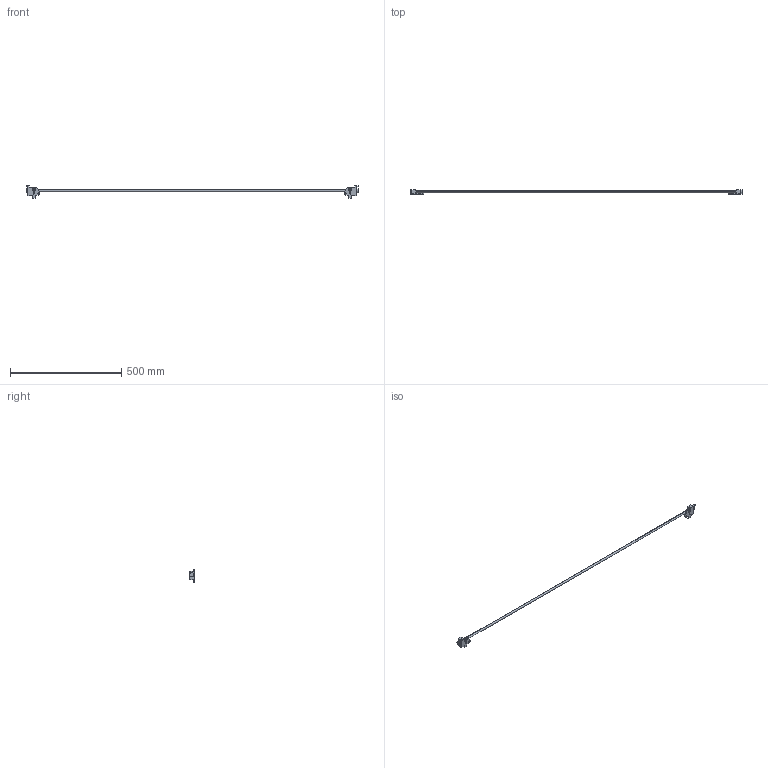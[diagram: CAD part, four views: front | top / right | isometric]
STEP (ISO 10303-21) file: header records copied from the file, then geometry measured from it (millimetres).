
FILE_DESCRIPTION (( 'STEP AP214' ), '1' );
FILE_NAME ('Seitenstabilisator-Set_KAB-1500.step', '2010-09-22T11:14:52', ( 'grass' ), ( '' ), 'SwSTEP 2.0', 'SolidWorks 2010', '' );
FILE_SCHEMA (( 'AUTOMOTIVE_DESIGN' ));
Length unit declared in the file: millimetre
Products named in the file (1): Seitenstabilisator-Set_KAB-1500
Bounding box: 1493 x 21.55 x 55.1 mm (x, y, z)
Volume: 157430.8 mm3; surface area: 60885.7 mm2
Topology: 1 solids, 1 shells, 66 faces, 174 edges, 116 vertices
Faces by surface type: plane 40, cylinder 26
Entity records: 2108 total; most frequent: DIRECTION 360, CARTESIAN_POINT 357, ORIENTED_EDGE 348, EDGE_CURVE 174, VECTOR 122, LINE 122, AXIS2_PLACEMENT_3D 119, VERTEX_POINT 116
